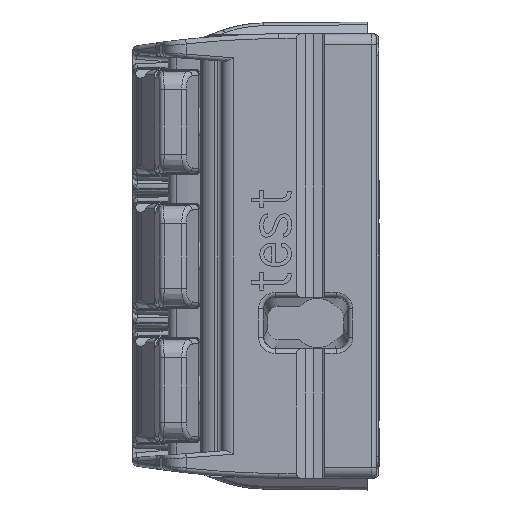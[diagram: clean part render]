
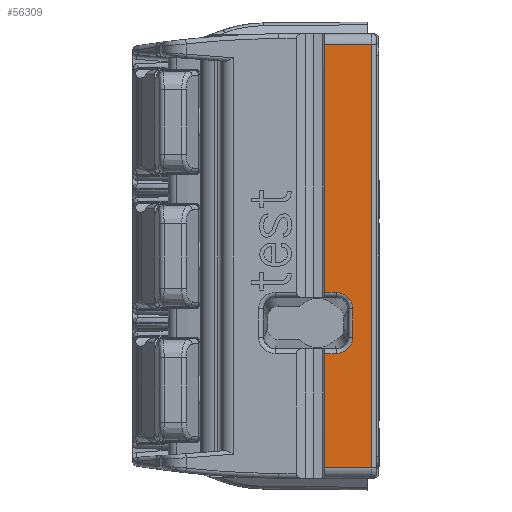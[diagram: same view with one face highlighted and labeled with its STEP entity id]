
A CAD part, left-side view. The second image highlights one B-rep face of the part: STEP entity #56309.
In plain terms, the highlighted planar face has unit normal (-1, 0, 0).
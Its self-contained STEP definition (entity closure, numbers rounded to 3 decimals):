
#3164=CIRCLE('',#59689,0.7);
#3167=CIRCLE('',#59694,0.7);
#6172=LINE('',#86315,#9562);
#6207=LINE('',#86488,#9597);
#6211=LINE('',#86511,#9601);
#6212=LINE('',#86513,#9602);
#6215=LINE('',#86535,#9605);
#6216=LINE('',#86540,#9606);
#6217=LINE('',#86542,#9607);
#6218=LINE('',#86543,#9608);
#9562=VECTOR('',#68938,1000.);
#9597=VECTOR('',#69049,1000.);
#9601=VECTOR('',#69069,1000.);
#9602=VECTOR('',#69072,1000.);
#9605=VECTOR('',#69093,1000.);
#9606=VECTOR('',#69102,1000.);
#9607=VECTOR('',#69103,1000.);
#9608=VECTOR('',#69104,1000.);
#18652=ORIENTED_EDGE('',*,*,#27330,.T.);
#18653=ORIENTED_EDGE('',*,*,#27327,.F.);
#18654=ORIENTED_EDGE('',*,*,#27333,.T.);
#18655=ORIENTED_EDGE('',*,*,#27334,.T.);
#18656=ORIENTED_EDGE('',*,*,#27249,.T.);
#18657=ORIENTED_EDGE('',*,*,#27309,.T.);
#18658=ORIENTED_EDGE('',*,*,#27319,.T.);
#18659=ORIENTED_EDGE('',*,*,#27335,.T.);
#18660=ORIENTED_EDGE('',*,*,#27320,.T.);
#18661=ORIENTED_EDGE('',*,*,#27332,.F.);
#27249=EDGE_CURVE('',#31693,#31692,#6172,.T.);
#27309=EDGE_CURVE('',#31692,#31732,#6207,.T.);
#27319=EDGE_CURVE('',#31732,#31739,#6211,.F.);
#27320=EDGE_CURVE('',#31740,#31741,#6212,.T.);
#27327=EDGE_CURVE('',#31747,#31745,#3164,.T.);
#27330=EDGE_CURVE('',#31748,#31745,#6215,.T.);
#27332=EDGE_CURVE('',#31748,#31741,#3167,.T.);
#27333=EDGE_CURVE('',#31747,#31750,#6216,.T.);
#27334=EDGE_CURVE('',#31750,#31693,#6217,.T.);
#27335=EDGE_CURVE('',#31739,#31740,#6218,.T.);
#31692=VERTEX_POINT('',#86314);
#31693=VERTEX_POINT('',#86316);
#31732=VERTEX_POINT('',#86487);
#31739=VERTEX_POINT('',#86510);
#31740=VERTEX_POINT('',#86514);
#31741=VERTEX_POINT('',#86515);
#31745=VERTEX_POINT('',#86524);
#31747=VERTEX_POINT('',#86528);
#31748=VERTEX_POINT('',#86532);
#31750=VERTEX_POINT('',#86541);
#34710=EDGE_LOOP('',(#18652,#18653,#18654,#18655,#18656,#18657,#18658,#18659,
#18660,#18661));
#37076=FACE_BOUND('',#34710,.T.);
#38509=PLANE('',#59695);
#56309=ADVANCED_FACE('',(#37076),#38509,.T.);
#59689=AXIS2_PLACEMENT_3D('',#86529,#69086,#69087);
#59694=AXIS2_PLACEMENT_3D('',#86538,#69098,#69099);
#59695=AXIS2_PLACEMENT_3D('',#86539,#69100,#69101);
#68938=DIRECTION('',(0.,-1.,0.));
#69049=DIRECTION('',(0.,0.,1.));
#69069=DIRECTION('',(0.,-1.,0.));
#69072=DIRECTION('',(0.,-1.,0.));
#69086=DIRECTION('',(-1.,0.,0.));
#69087=DIRECTION('',(0.,0.,-1.));
#69093=DIRECTION('',(0.,0.,-1.));
#69098=DIRECTION('',(-1.,0.,0.));
#69099=DIRECTION('',(0.,-1.,0.));
#69100=DIRECTION('',(-1.,0.,0.));
#69101=DIRECTION('',(0.,-1.,0.));
#69102=DIRECTION('',(0.,1.,0.));
#69103=DIRECTION('',(0.,0.,-1.));
#69104=DIRECTION('',(0.,0.,-1.));
#86314=CARTESIAN_POINT('',(-0.55,-2.,-9.));
#86315=CARTESIAN_POINT('',(-0.55,5.65,-9.));
#86316=CARTESIAN_POINT('',(-0.55,0.,-9.));
#86487=CARTESIAN_POINT('',(-0.55,-2.,9.));
#86488=CARTESIAN_POINT('',(-0.55,-2.,-9.));
#86510=CARTESIAN_POINT('',(-0.55,0.,9.));
#86511=CARTESIAN_POINT('',(-0.55,5.65,9.));
#86513=CARTESIAN_POINT('',(-0.55,0.,-1.551));
#86514=CARTESIAN_POINT('',(-0.55,0.,-1.551));
#86515=CARTESIAN_POINT('',(-0.55,-0.5,-1.551));
#86524=CARTESIAN_POINT('',(-0.55,-1.2,-3.449));
#86528=CARTESIAN_POINT('',(-0.55,-0.5,-4.149));
#86529=CARTESIAN_POINT('',(-0.55,-0.5,-3.449));
#86532=CARTESIAN_POINT('',(-0.55,-1.2,-2.251));
#86535=CARTESIAN_POINT('',(-0.55,-1.2,-2.251));
#86538=CARTESIAN_POINT('',(-0.55,-0.5,-2.251));
#86539=CARTESIAN_POINT('',(-0.55,5.65,-9.45));
#86540=CARTESIAN_POINT('',(-0.55,-0.5,-4.149));
#86541=CARTESIAN_POINT('',(-0.55,0.,-4.149));
#86542=CARTESIAN_POINT('',(-0.55,0.,-4.149));
#86543=CARTESIAN_POINT('',(-0.55,0.,9.));
